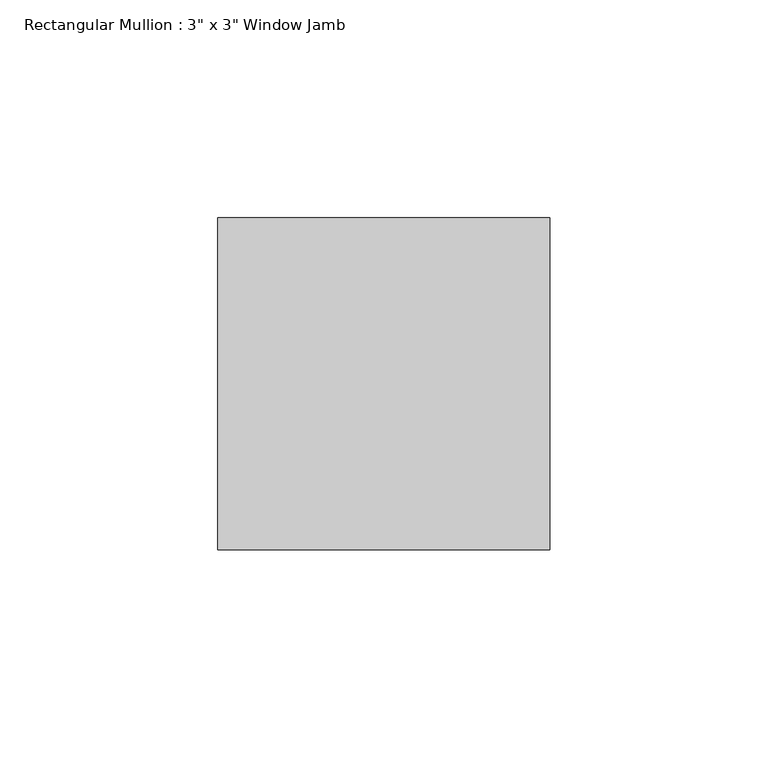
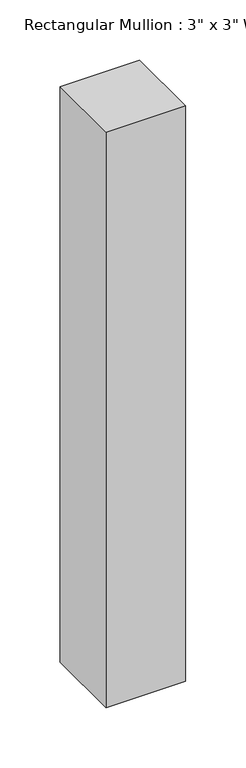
"""IFC4 building model written with IfcOpenShell, lengths in millimetres: member geometry."""

import ifcopenshell
import ifcopenshell.guid

model = None  # the IFC model being written
_history = None  # IfcOwnerHistory: only IFC2X3 demands one
_inside = {}  # id of a spatial element -> (the spatial element, [elements in it])
_under = {}  # id of a project, library or spatial element -> (it, [spatial elements below it])
_declared = {}  # id of a project -> (the project, [libraries it declares])
_typed = {}  # id of a type object -> (the type object, [elements of that type])
_made_of = {}  # id of a material, layer set ... -> (it, [elements and type objects made of it])


def new_model(schema):
    """Start an empty IFC model of exactly this schema.

    Asked for "IFC4X3", IfcOpenShell would pick the latest addendum, in which some entities
    have other attributes; the version numbers below select the first issue.
    IFC2X3 requires an IfcOwnerHistory on every rooted entity: one is made here for all.
    """
    global model, _history
    if schema == "IFC4X3":
        model = ifcopenshell.file(schema_version=(4, 3, 0, 0))
    else:
        model = ifcopenshell.file(schema=schema)
    _inside.clear()
    _under.clear()
    _declared.clear()
    _typed.clear()
    _made_of.clear()
    _history = None
    if model.schema == "IFC2X3":
        org = make("IfcOrganization", Name="unknown")
        user = make(
            "IfcPersonAndOrganization",
            ThePerson=make("IfcPerson", FamilyName="unknown"),
            TheOrganization=org,
        )
        app = make(
            "IfcApplication",
            ApplicationDeveloper=org,
            Version="unknown",
            ApplicationFullName="unknown",
            ApplicationIdentifier="unknown",
        )
        _history = make(
            "IfcOwnerHistory",
            OwningUser=user,
            OwningApplication=app,
            ChangeAction="ADDED",
            CreationDate=0,
        )
    return model


def make(cls, **values):
    """One entity of the class cls with the attributes given. An attribute that is None is left unset."""
    return model.create_entity(
        cls, **{name: value for name, value in values.items() if value is not None}
    )


def rooted(cls, **values):
    """An entity with a GlobalId (a new one), such as an element, a storey or a relation."""
    return make(cls, GlobalId=ifcopenshell.guid.new(), OwnerHistory=_history, **values)


def si_unit(unit_type, name, prefix=None):
    """IfcSIUnit, for example si_unit("LENGTHUNIT", "METRE", prefix="MILLI")."""
    return make("IfcSIUnit", UnitType=unit_type, Prefix=prefix, Name=name)


def assignment(units):
    """IfcUnitAssignment: the units of a project."""
    return None if units is None else make("IfcUnitAssignment", Units=units)


def point(xyz):
    """IfcCartesianPoint."""
    return None if xyz is None else make("IfcCartesianPoint", Coordinates=xyz)


def direction(xyz):
    """IfcDirection."""
    return None if xyz is None else make("IfcDirection", DirectionRatios=xyz)


def frame(location, z_axis=None, x_axis=None):
    """IfcAxis2Placement3D, a coordinate frame: its origin and axes. An axis left out is left unset."""
    return make(
        "IfcAxis2Placement3D",
        Location=point(location),
        Axis=direction(z_axis),
        RefDirection=direction(x_axis),
    )


def origin():
    """The frame at (0, 0, 0) with its axes left unset."""
    return frame((0.0, 0.0, 0.0))


def place(relative_to, where):
    """IfcLocalPlacement: puts the frame where relative to a parent placement (None: the world)."""
    return make(
        "IfcLocalPlacement", PlacementRelTo=relative_to, RelativePlacement=where
    )


def context(
    kind, dimensions, precision=None, world=None, true_north=None, identifier=None
):
    """IfcGeometricRepresentationContext, for example the 3D "Model" context."""
    return make(
        "IfcGeometricRepresentationContext",
        ContextIdentifier=identifier,
        ContextType=kind,
        CoordinateSpaceDimension=dimensions,
        Precision=precision,
        WorldCoordinateSystem=world,
        TrueNorth=true_north,
    )


def project(units=None, contexts=None):
    """IfcProject with its units and contexts."""
    return rooted(
        "IfcProject",
        Name="project",
        RepresentationContexts=contexts,
        UnitsInContext=assignment(units),
    )


def spatial(cls, under=None, at=None, **own):
    """A site, building, storey or space (cls), placed at a placement, below another one or the project."""
    s = rooted(cls, ObjectPlacement=at, **own)
    if under is not None:
        _under.setdefault(under.id(), (under, []))[1].append(s)
    return s


def polyline(points):
    """IfcPolyline through the points."""
    return make("IfcPolyline", Points=[point(p) for p in points])


def outline(outer, holes=None, kind="AREA"):
    """IfcArbitraryClosedProfileDef: a profile drawn as a closed curve; with holes, ...WithVoids."""
    if holes is None:
        return make("IfcArbitraryClosedProfileDef", ProfileType=kind, OuterCurve=outer)
    return make(
        "IfcArbitraryProfileDefWithVoids",
        ProfileType=kind,
        OuterCurve=outer,
        InnerCurves=holes,
    )


def extrude(swept, where, along, depth):
    """IfcExtrudedAreaSolid: the profile swept, set in the frame where, extruded along a direction by depth."""
    return make(
        "IfcExtrudedAreaSolid",
        SweptArea=swept,
        Position=where,
        ExtrudedDirection=direction(along),
        Depth=depth,
    )


def shape(context_of_items, identifier, shape_type, items):
    """IfcShapeRepresentation: the items that make up one representation, for example the "Body"."""
    return make(
        "IfcShapeRepresentation",
        ContextOfItems=context_of_items,
        RepresentationIdentifier=identifier,
        RepresentationType=shape_type,
        Items=items,
    )


def source(mapping_origin, context_of_items, identifier, shape_type, items):
    """IfcRepresentationMap: a shape defined once, which mapped items show again and again."""
    return make(
        "IfcRepresentationMap",
        MappingOrigin=mapping_origin,
        MappedRepresentation=shape(context_of_items, identifier, shape_type, items),
    )


def transform(
    local_origin,
    x_axis=None,
    y_axis=None,
    z_axis=None,
    scale=None,
    scale2=None,
    scale3=None,
    uniform=True,
):
    """IfcCartesianTransformationOperator3D, or its non-uniform kind. x_axis, y_axis, z_axis: its Axis1, 2, 3."""
    if uniform:
        return make(
            "IfcCartesianTransformationOperator3D",
            Axis1=direction(x_axis),
            Axis2=direction(y_axis),
            LocalOrigin=point(local_origin),
            Scale=scale,
            Axis3=direction(z_axis),
        )
    return make(
        "IfcCartesianTransformationOperator3DnonUniform",
        Axis1=direction(x_axis),
        Axis2=direction(y_axis),
        LocalOrigin=point(local_origin),
        Scale=scale,
        Axis3=direction(z_axis),
        Scale2=scale2,
        Scale3=scale3,
    )


def mapped(mapping_source, mapping_target):
    """IfcMappedItem: shows the shape of a source again, moved by a transform."""
    return make(
        "IfcMappedItem", MappingSource=mapping_source, MappingTarget=mapping_target
    )


def made_of(thing, what):
    """Note that an element or type object is made of a material, layer set ...; save() writes the relation."""
    if what is not None:
        _made_of.setdefault(what.id(), (what, []))[1].append(thing)
    return thing


def element(
    cls,
    number,
    at=None,
    inside=None,
    cuts=None,
    type_object=None,
    material=None,
    context=None,
    identifier="Body",
    shape_type=None,
    held_by="IfcProductDefinitionShape",
    body=None,
    shapes=None,
    **own,
):
    """One element of the class cls, such as IfcWall. Its Tag is "e" and its number.

    at: its placement. inside: the storey or other place that contains it. cuts: it is an
    opening in that element (IfcRelVoidsElement). A single representation is given by context,
    identifier, shape_type and body (its items); several are given by shapes. held_by: the class
    of the entity that holds the representations. save() writes the other relations.
    """
    e = rooted(cls, Tag="e%d" % number, ObjectPlacement=at, **own)
    if body is not None:
        shapes = [shape(context, identifier, shape_type, body)]
    if shapes is not None:
        e.Representation = make(held_by, Representations=shapes)
    if inside is not None:
        _inside.setdefault(inside.id(), (inside, []))[1].append(e)
    if cuts is not None:
        rooted(
            "IfcRelVoidsElement", RelatingBuildingElement=cuts, RelatedOpeningElement=e
        )
    if type_object is not None:
        _typed.setdefault(type_object.id(), (type_object, []))[1].append(e)
    return made_of(e, material)


def aggregate(whole, parts):
    """IfcRelAggregates: a whole, such as a stair, and the parts it consists of."""
    return rooted("IfcRelAggregates", RelatingObject=whole, RelatedObjects=parts)


def save(model, path):
    """Write the relations noted so far, then the file.

    IfcRelAggregates (storeys below a building ...), IfcRelContainedInSpatialStructure (elements
    in a storey), IfcRelDefinesByType, IfcRelAssociatesMaterial and IfcRelDeclares: one each for
    every whole, place, type object, material and project.
    """
    for whole, parts in _under.values():
        aggregate(whole, parts)
    for where, things in _inside.values():
        rooted(
            "IfcRelContainedInSpatialStructure",
            RelatedElements=things,
            RelatingStructure=where,
        )
    for kind, things in _typed.values():
        rooted("IfcRelDefinesByType", RelatedObjects=things, RelatingType=kind)
    for what, things in _made_of.values():
        rooted("IfcRelAssociatesMaterial", RelatedObjects=things, RelatingMaterial=what)
    for by, libraries in _declared.values():
        rooted("IfcRelDeclares", RelatingContext=by, RelatedDefinitions=libraries)
    model.write(path)


def member_5fd36c82(model_context):
    return source(origin(), model_context, "Body", "SweptSolid", [
        extrude(outline(polyline([(0.0, 50.8), (0.0, -25.4), (-76.2, -25.4), (-76.2, 50.8), (0.0, 50.8)])), frame((0.0, 0.0, -582.6425538), z_axis=(0.0, 0.0, 1.0), x_axis=(1.0, 0.0, 0.0)), (0.0, 0.0, 1.0), 582.6425538),
    ])


if __name__ == "__main__":
    model = new_model("IFC4")
    model_context = context("Model", 3, world=origin())
    ifc_project = project(units=[si_unit("LENGTHUNIT", "METRE", prefix="MILLI")], contexts=[model_context])
    site = spatial("IfcSite", under=ifc_project)
    building = spatial("IfcBuilding", under=site)
    placement = place(None, origin())
    member_shape = member_5fd36c82(model_context)
    element("IfcMember", 1, ObjectType="Rectangular Mullion : 3\" x 3\" Window Jamb", at=placement, inside=building, context=model_context, shape_type="MappedRepresentation", body=[
        mapped(member_shape, transform((0.0, 0.0, 0.0), x_axis=(1.0, 0.0, 0.0), y_axis=(0.0, 1.0, 0.0), z_axis=(0.0, 0.0, 1.0))),
    ])
    save(model, "model.ifc")
